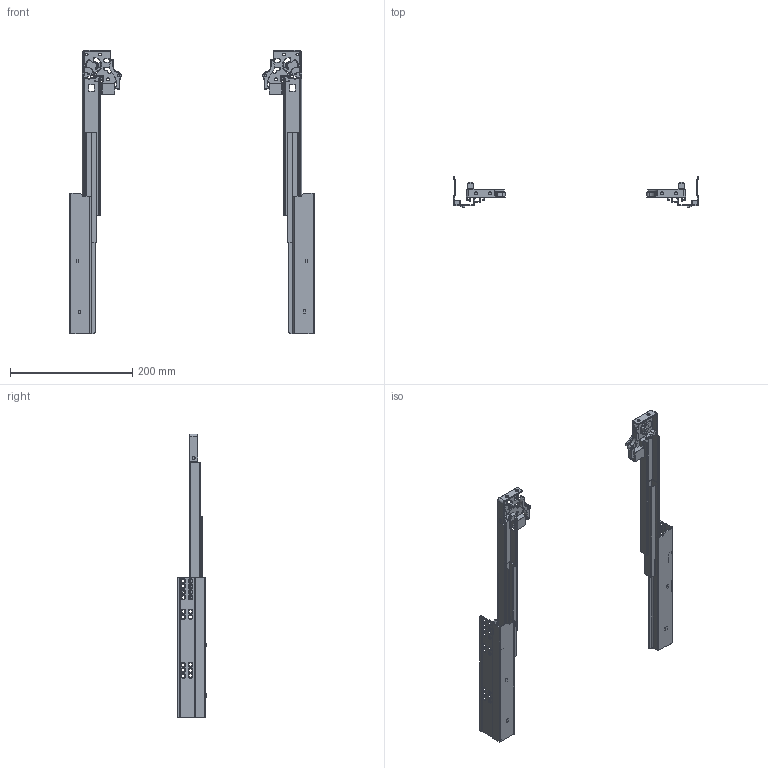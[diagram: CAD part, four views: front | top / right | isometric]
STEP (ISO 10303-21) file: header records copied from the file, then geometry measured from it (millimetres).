
FILE_DESCRIPTION(/* description */ (''),/* implementation_level */ '2;1');
FILE_NAME(/* name */ 'D:\$Workingspace\Designs\Katalog\Cadsoft\GTV Prowadnice\Prowadnice GTV_bryły 3D\PB-0FPO-270_wysunieta.stp',/* time_stamp */ '2016-11-21T14:08:10+01:00',/* author */ ('tomaszw'),/* organization */ (''),/* preprocessor_version */ 'ST-DEVELOPER v16.1',/* originating_system */ 'Autodesk Inventor 2016',/* authorisation */ '');
FILE_SCHEMA (('AUTOMOTIVE_DESIGN { 1 0 10303 214 3 1 1 }'));
Length unit declared in the file: millimetre
Products named in the file (9): PB-0FPO-CL-270; PB-0FPO-CR-270; PB-0FPO-DL-270; PB-0FPO-DR-270; PB-0FPO-DWL-270; PB-0FPO-DWR-270; PB-0FPO-SL; PB-0FPO-SR; PB-0FPO
Assembly tree (8 placements, depth 2):
  PB-0FPO
    PB-0FPO-CL-270
    PB-0FPO-CR-270
    PB-0FPO-DL-270
    PB-0FPO-DR-270
    PB-0FPO-DWL-270
    PB-0FPO-DWR-270
    PB-0FPO-SL
    PB-0FPO-SR
Bounding box: 400 x 48.8 x 464 mm (x, y, z)
Volume: 194143.9 mm3; surface area: 227695.4 mm2
Topology: 16 solids, 16 shells, 1858 faces, 4278 edges, 2458 vertices
Faces by surface type: cylinder 782, plane 440, torus 366, sphere 198, cone 36, bspline 36
Full cylindrical faces by diameter (mm): 3 x2, 4 x6, 4.5 x6, 5 x2, 6 x36, 7.889 x2
Entity records: 55641 total; most frequent: CARTESIAN_POINT 11047, DIRECTION 9856, ORIENTED_EDGE 8224, EDGE_CURVE 4112, AXIS2_PLACEMENT_3D 3973, VERTEX_POINT 2416, CIRCLE 2122, EDGE_LOOP 2108
